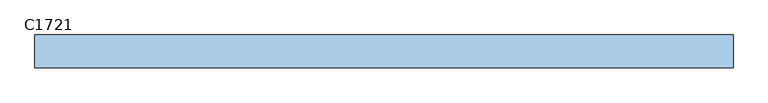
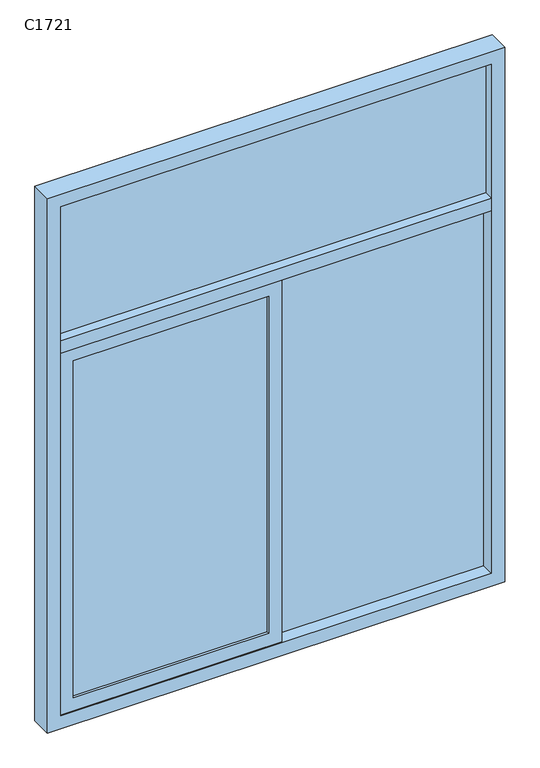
"""IFC4 building model written with IfcOpenShell, lengths in millimetres: window geometry, 组合窗 - 双层单列(固定+推拉) : C1721."""

import ifcopenshell
import ifcopenshell.guid

model = None  # the IFC model being written
_history = None  # IfcOwnerHistory: only IFC2X3 demands one
_inside = {}  # id of a spatial element -> (the spatial element, [elements in it])
_under = {}  # id of a project, library or spatial element -> (it, [spatial elements below it])
_declared = {}  # id of a project -> (the project, [libraries it declares])
_typed = {}  # id of a type object -> (the type object, [elements of that type])
_made_of = {}  # id of a material, layer set ... -> (it, [elements and type objects made of it])


def new_model(schema):
    """Start an empty IFC model of exactly this schema.

    Asked for "IFC4X3", IfcOpenShell would pick the latest addendum, in which some entities
    have other attributes; the version numbers below select the first issue.
    IFC2X3 requires an IfcOwnerHistory on every rooted entity: one is made here for all.
    """
    global model, _history
    if schema == "IFC4X3":
        model = ifcopenshell.file(schema_version=(4, 3, 0, 0))
    else:
        model = ifcopenshell.file(schema=schema)
    _inside.clear()
    _under.clear()
    _declared.clear()
    _typed.clear()
    _made_of.clear()
    _history = None
    if model.schema == "IFC2X3":
        org = make("IfcOrganization", Name="unknown")
        user = make(
            "IfcPersonAndOrganization",
            ThePerson=make("IfcPerson", FamilyName="unknown"),
            TheOrganization=org,
        )
        app = make(
            "IfcApplication",
            ApplicationDeveloper=org,
            Version="unknown",
            ApplicationFullName="unknown",
            ApplicationIdentifier="unknown",
        )
        _history = make(
            "IfcOwnerHistory",
            OwningUser=user,
            OwningApplication=app,
            ChangeAction="ADDED",
            CreationDate=0,
        )
    return model


def make(cls, **values):
    """One entity of the class cls with the attributes given. An attribute that is None is left unset."""
    return model.create_entity(
        cls, **{name: value for name, value in values.items() if value is not None}
    )


def rooted(cls, **values):
    """An entity with a GlobalId (a new one), such as an element, a storey or a relation."""
    return make(cls, GlobalId=ifcopenshell.guid.new(), OwnerHistory=_history, **values)


def si_unit(unit_type, name, prefix=None):
    """IfcSIUnit, for example si_unit("LENGTHUNIT", "METRE", prefix="MILLI")."""
    return make("IfcSIUnit", UnitType=unit_type, Prefix=prefix, Name=name)


def assignment(units):
    """IfcUnitAssignment: the units of a project."""
    return None if units is None else make("IfcUnitAssignment", Units=units)


def point(xyz):
    """IfcCartesianPoint."""
    return None if xyz is None else make("IfcCartesianPoint", Coordinates=xyz)


def direction(xyz):
    """IfcDirection."""
    return None if xyz is None else make("IfcDirection", DirectionRatios=xyz)


def frame(location, z_axis=None, x_axis=None):
    """IfcAxis2Placement3D, a coordinate frame: its origin and axes. An axis left out is left unset."""
    return make(
        "IfcAxis2Placement3D",
        Location=point(location),
        Axis=direction(z_axis),
        RefDirection=direction(x_axis),
    )


def origin():
    """The frame at (0, 0, 0) with its axes left unset."""
    return frame((0.0, 0.0, 0.0))


def place(relative_to, where):
    """IfcLocalPlacement: puts the frame where relative to a parent placement (None: the world)."""
    return make(
        "IfcLocalPlacement", PlacementRelTo=relative_to, RelativePlacement=where
    )


def context(
    kind, dimensions, precision=None, world=None, true_north=None, identifier=None
):
    """IfcGeometricRepresentationContext, for example the 3D "Model" context."""
    return make(
        "IfcGeometricRepresentationContext",
        ContextIdentifier=identifier,
        ContextType=kind,
        CoordinateSpaceDimension=dimensions,
        Precision=precision,
        WorldCoordinateSystem=world,
        TrueNorth=true_north,
    )


def project(units=None, contexts=None):
    """IfcProject with its units and contexts."""
    return rooted(
        "IfcProject",
        Name="project",
        RepresentationContexts=contexts,
        UnitsInContext=assignment(units),
    )


def spatial(cls, under=None, at=None, **own):
    """A site, building, storey or space (cls), placed at a placement, below another one or the project."""
    s = rooted(cls, ObjectPlacement=at, **own)
    if under is not None:
        _under.setdefault(under.id(), (under, []))[1].append(s)
    return s


def polyline(points):
    """IfcPolyline through the points."""
    return make("IfcPolyline", Points=[point(p) for p in points])


def outline(outer, holes=None, kind="AREA"):
    """IfcArbitraryClosedProfileDef: a profile drawn as a closed curve; with holes, ...WithVoids."""
    if holes is None:
        return make("IfcArbitraryClosedProfileDef", ProfileType=kind, OuterCurve=outer)
    return make(
        "IfcArbitraryProfileDefWithVoids",
        ProfileType=kind,
        OuterCurve=outer,
        InnerCurves=holes,
    )


def extrude(swept, where, along, depth):
    """IfcExtrudedAreaSolid: the profile swept, set in the frame where, extruded along a direction by depth."""
    return make(
        "IfcExtrudedAreaSolid",
        SweptArea=swept,
        Position=where,
        ExtrudedDirection=direction(along),
        Depth=depth,
    )


def shape(context_of_items, identifier, shape_type, items):
    """IfcShapeRepresentation: the items that make up one representation, for example the "Body"."""
    return make(
        "IfcShapeRepresentation",
        ContextOfItems=context_of_items,
        RepresentationIdentifier=identifier,
        RepresentationType=shape_type,
        Items=items,
    )


def source(mapping_origin, context_of_items, identifier, shape_type, items):
    """IfcRepresentationMap: a shape defined once, which mapped items show again and again."""
    return make(
        "IfcRepresentationMap",
        MappingOrigin=mapping_origin,
        MappedRepresentation=shape(context_of_items, identifier, shape_type, items),
    )


def transform(
    local_origin,
    x_axis=None,
    y_axis=None,
    z_axis=None,
    scale=None,
    scale2=None,
    scale3=None,
    uniform=True,
):
    """IfcCartesianTransformationOperator3D, or its non-uniform kind. x_axis, y_axis, z_axis: its Axis1, 2, 3."""
    if uniform:
        return make(
            "IfcCartesianTransformationOperator3D",
            Axis1=direction(x_axis),
            Axis2=direction(y_axis),
            LocalOrigin=point(local_origin),
            Scale=scale,
            Axis3=direction(z_axis),
        )
    return make(
        "IfcCartesianTransformationOperator3DnonUniform",
        Axis1=direction(x_axis),
        Axis2=direction(y_axis),
        LocalOrigin=point(local_origin),
        Scale=scale,
        Axis3=direction(z_axis),
        Scale2=scale2,
        Scale3=scale3,
    )


def mapped(mapping_source, mapping_target):
    """IfcMappedItem: shows the shape of a source again, moved by a transform."""
    return make(
        "IfcMappedItem", MappingSource=mapping_source, MappingTarget=mapping_target
    )


def made_of(thing, what):
    """Note that an element or type object is made of a material, layer set ...; save() writes the relation."""
    if what is not None:
        _made_of.setdefault(what.id(), (what, []))[1].append(thing)
    return thing


def element(
    cls,
    number,
    at=None,
    inside=None,
    cuts=None,
    type_object=None,
    material=None,
    context=None,
    identifier="Body",
    shape_type=None,
    held_by="IfcProductDefinitionShape",
    body=None,
    shapes=None,
    **own,
):
    """One element of the class cls, such as IfcWall. Its Tag is "e" and its number.

    at: its placement. inside: the storey or other place that contains it. cuts: it is an
    opening in that element (IfcRelVoidsElement). A single representation is given by context,
    identifier, shape_type and body (its items); several are given by shapes. held_by: the class
    of the entity that holds the representations. save() writes the other relations.
    """
    e = rooted(cls, Tag="e%d" % number, ObjectPlacement=at, **own)
    if body is not None:
        shapes = [shape(context, identifier, shape_type, body)]
    if shapes is not None:
        e.Representation = make(held_by, Representations=shapes)
    if inside is not None:
        _inside.setdefault(inside.id(), (inside, []))[1].append(e)
    if cuts is not None:
        rooted(
            "IfcRelVoidsElement", RelatingBuildingElement=cuts, RelatedOpeningElement=e
        )
    if type_object is not None:
        _typed.setdefault(type_object.id(), (type_object, []))[1].append(e)
    return made_of(e, material)


def aggregate(whole, parts):
    """IfcRelAggregates: a whole, such as a stair, and the parts it consists of."""
    return rooted("IfcRelAggregates", RelatingObject=whole, RelatedObjects=parts)


def save(model, path):
    """Write the relations noted so far, then the file.

    IfcRelAggregates (storeys below a building ...), IfcRelContainedInSpatialStructure (elements
    in a storey), IfcRelDefinesByType, IfcRelAssociatesMaterial and IfcRelDeclares: one each for
    every whole, place, type object, material and project.
    """
    for whole, parts in _under.values():
        aggregate(whole, parts)
    for where, things in _inside.values():
        rooted(
            "IfcRelContainedInSpatialStructure",
            RelatedElements=things,
            RelatingStructure=where,
        )
    for kind, things in _typed.values():
        rooted("IfcRelDefinesByType", RelatedObjects=things, RelatingType=kind)
    for what, things in _made_of.values():
        rooted("IfcRelAssociatesMaterial", RelatedObjects=things, RelatingMaterial=what)
    for by, libraries in _declared.values():
        rooted("IfcRelDeclares", RelatingContext=by, RelatedDefinitions=libraries)
    model.write(path)


def c1721_525d0301(model_context):
    return source(origin(), model_context, "Body", "SweptSolid", [
        extrude(outline(polyline([(800.0, -10.0), (-800.0, -10.0), (-800.0, 0.0), (800.0, 0.0), (800.0, -10.0)])), frame((0.0, 0.0, 2425.0), z_axis=(0.0, 0.0, 1.0), x_axis=(1.0, 0.0, 0.0)), (0.0, 0.0, 1.0), 525.0),
        extrude(outline(polyline([(-750.0, -20.0), (-25.0, -20.0), (-25.0, -30.0), (-750.0, -30.0), (-750.0, -20.0)])), frame((0.0, 0.0, 1000.0), z_axis=(0.0, 0.0, 1.0), x_axis=(1.0, 0.0, 0.0)), (0.0, 0.0, 1.0), 1325.0),
        extrude(outline(polyline([(25.0, 15.0), (800.0, 15.0), (800.0, 5.0), (25.0, 5.0), (25.0, 15.0)])), frame((0.0, 0.0, 950.0), z_axis=(0.0, 0.0, 1.0), x_axis=(1.0, 0.0, 0.0)), (0.0, 0.0, 1.0), 1425.0),
        extrude(outline(polyline([(25.0, 25.0), (25.0, -5.0), (-25.0, -5.0), (-25.0, 25.0), (25.0, 25.0)])), frame((0.0, 0.0, 950.0), z_axis=(0.0, 0.0, 1.0), x_axis=(1.0, 0.0, 0.0)), (0.0, 0.0, 1.0), 1425.0),
        extrude(outline(polyline([(2375.0, 25.0), (2375.0, -800.0), (950.0, -800.0), (950.0, 25.0), (2375.0, 25.0)]), holes=[polyline([(1000.0, -25.0), (1000.0, -750.0), (2325.0, -750.0), (2325.0, -25.0), (1000.0, -25.0)])]), frame((0.0, -40.0, 0.0), z_axis=(0.0, 1.0, 0.0), x_axis=(0.0, 0.0, 1.0)), (0.0, 0.0, 1.0), 30.0),
        extrude(outline(polyline([(-800.0, 35.0), (800.0, 35.0), (800.0, -45.0), (-800.0, -45.0), (-800.0, 35.0)])), frame((0.0, 0.0, 2375.0), z_axis=(0.0, 0.0, 1.0), x_axis=(1.0, 0.0, 0.0)), (0.0, 0.0, 1.0), 50.0),
        extrude(outline(polyline([(3000.0, -850.0), (900.0, -850.0), (900.0, 850.0), (3000.0, 850.0), (3000.0, -850.0)]), holes=[polyline([(2950.0, 800.0), (950.0, 800.0), (950.0, -800.0), (2950.0, -800.0), (2950.0, 800.0)])]), frame((0.0, -45.0, 0.0), z_axis=(0.0, 1.0, 0.0), x_axis=(0.0, 0.0, 1.0)), (0.0, 0.0, 1.0), 80.0),
    ])


if __name__ == "__main__":
    model = new_model("IFC4")
    model_context = context("Model", 3, world=origin())
    ifc_project = project(units=[si_unit("LENGTHUNIT", "METRE", prefix="MILLI")], contexts=[model_context])
    site = spatial("IfcSite", under=ifc_project)
    building = spatial("IfcBuilding", under=site)
    placement = place(None, origin())
    c1721_shape = c1721_525d0301(model_context)
    element("IfcWindow", 1, ObjectType="组合窗 - 双层单列(固定+推拉) : C1721", at=placement, inside=building, context=model_context, shape_type="MappedRepresentation", body=[
        mapped(c1721_shape, transform((0.0, 0.0, 0.0), x_axis=(1.0, 0.0, 0.0), y_axis=(0.0, 1.0, 0.0), z_axis=(0.0, 0.0, 1.0))),
    ])
    save(model, "model.ifc")
